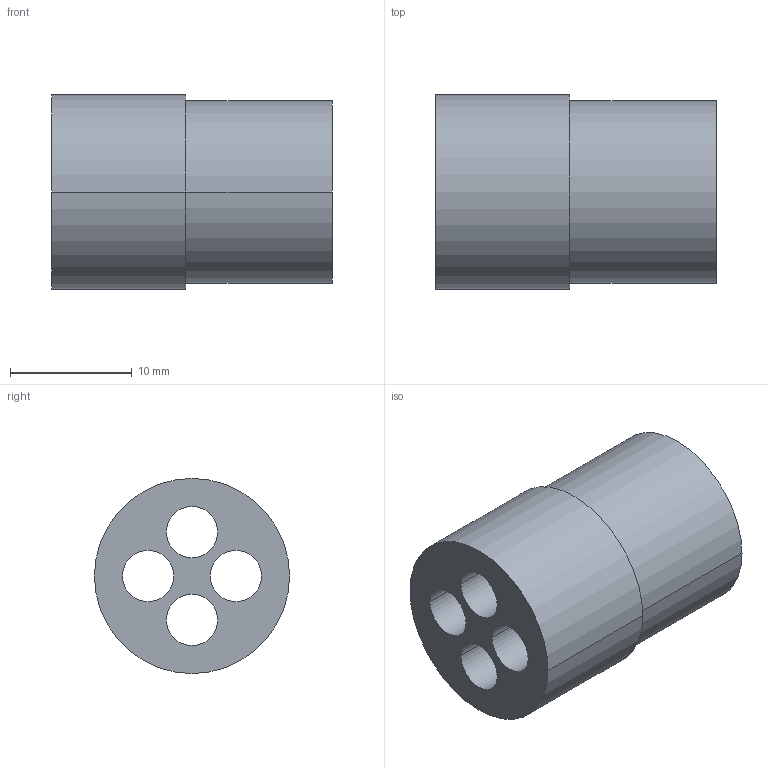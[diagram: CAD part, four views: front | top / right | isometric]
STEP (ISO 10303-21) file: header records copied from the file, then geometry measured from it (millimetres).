
FILE_DESCRIPTION(('Creo Elements/Direct Modeling STEP Export'),'2;1');
FILE_NAME('H05-0030-CL907_G13-404.stp','2012-02-15T14:46:07',(''),(''),'Creo Elements/Direct Modeling STEP processor for AP214 (Solid Model)','Creo Elements/Direct Modeling 18.0B 02-Dec-2011 (C) Parametric Technology GmbH','');
FILE_SCHEMA(('AUTOMOTIVE_DESIGN { 1 0 10303 214 1 1 1 1 }'));
Length unit declared in the file: millimetre
Products named in the file (1): G13-404
Bounding box: 23 x 16 x 16 mm (x, y, z)
Volume: 3057.6 mm3; surface area: 2623.6 mm2
Topology: 1 solids, 1 shells, 15 faces, 36 edges, 24 vertices
Faces by surface type: cylinder 12, plane 3
Entity records: 432 total; most frequent: ORIENTED_EDGE 72, DIRECTION 68, CARTESIAN_POINT 64, EDGE_CURVE 36, AXIS2_PLACEMENT_3D 28, VERTEX_POINT 24, EDGE_LOOP 24, FACE_OUTER_BOUND 15
